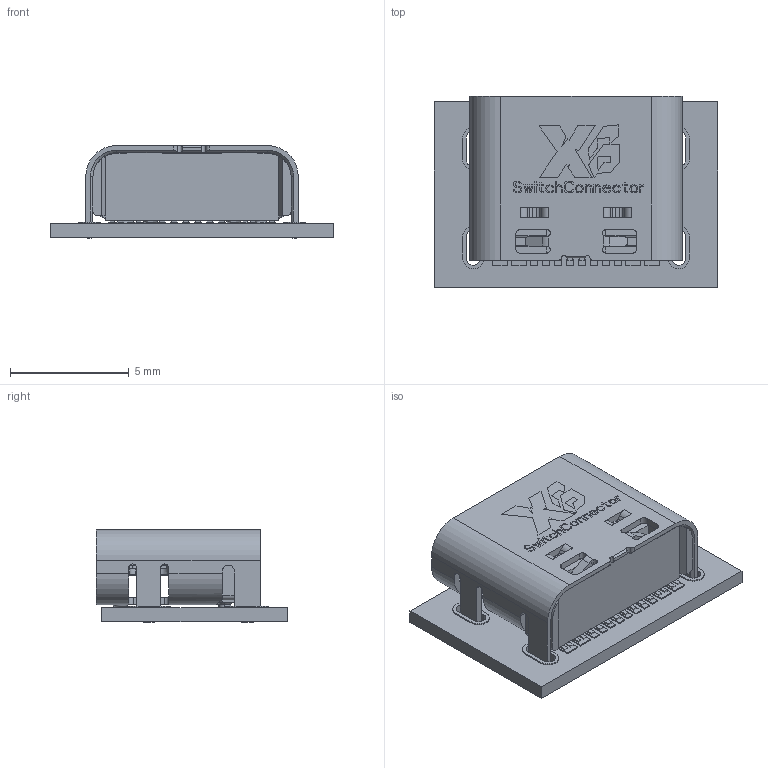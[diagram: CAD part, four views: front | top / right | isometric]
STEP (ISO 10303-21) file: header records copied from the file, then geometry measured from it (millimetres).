
FILE_DESCRIPTION((''),'2;1');
FILE_NAME('ASM0006_ASM','2022-12-02T16:37:09',('陈'),(''),'CREO PARAMETRIC BY PTC INC, 2020033','CREO PARAMETRIC BY PTC INC, 2020033','');
FILE_SCHEMA(('CONFIG_CONTROL_DESIGN'));
Length unit declared in the file: millimetre
Products named in the file (4): U501-A_1000; 54_100; U501-3_1_2_3_ASM; ASM0006_ASM
Assembly tree (3 placements, depth 3):
  ASM0006_ASM
    U501-3_1_2_3_ASM
      U501-A_1000
      54_100
Bounding box: 11.93 x 8.04 x 3.91 mm (x, y, z)
Volume: 54.6 mm3; surface area: 664.5 mm2
Topology: 20 solids, 22 shells, 1287 faces, 3666 edges, 2420 vertices
Faces by surface type: plane 1011, cylinder 240, cone 18, bspline 10, torus 8
Entity records: 41997 total; most frequent: CARTESIAN_POINT 7974, ORIENTED_EDGE 7321, DIRECTION 6695, EDGE_CURVE 3666, VECTOR 3049, LINE 3049, VERTEX_POINT 2420, AXIS2_PLACEMENT_3D 1823
